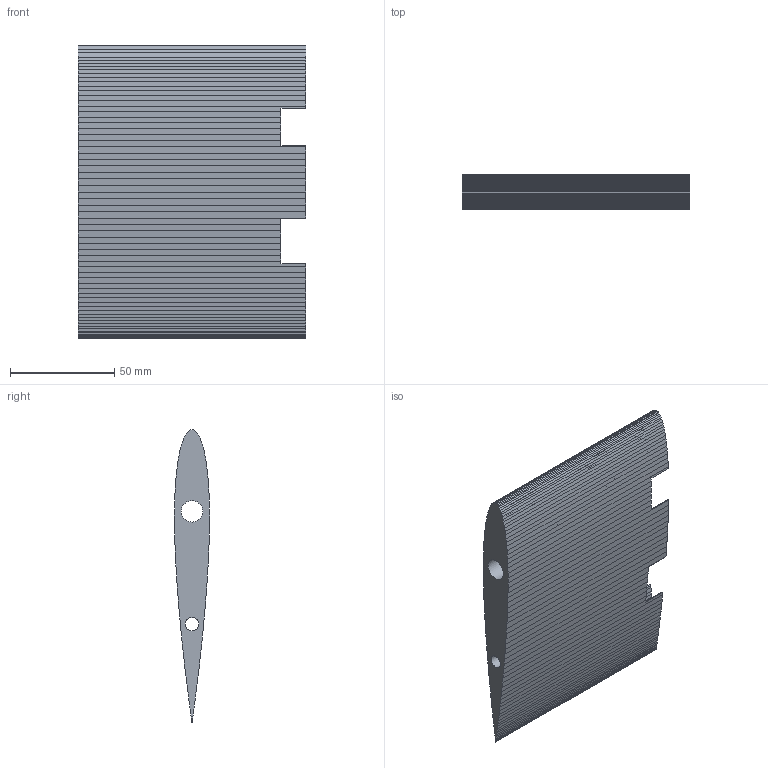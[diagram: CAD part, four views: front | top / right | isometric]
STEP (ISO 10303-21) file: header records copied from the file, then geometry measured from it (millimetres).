
FILE_DESCRIPTION(('Open CASCADE Model'),'2;1');
FILE_NAME('Open CASCADE Shape Model','2026-09-12T16:48:05',('Author'),( 'Open CASCADE'),'Open CASCADE STEP processor 7.9','Open CASCADE 7.9' ,'Unknown');
FILE_SCHEMA(('AUTOMOTIVE_DESIGN { 1 0 10303 214 1 1 1 1 }'));
Products named in the file (1): Open CASCADE STEP translator 7.9 14
Bounding box: 108.8 x 16.8 x 140 mm (x, y, z)
Volume: 28294.3 mm3; surface area: 77074.9 mm2
Topology: 1 solids, 4 shells, 744 faces, 2202 edges, 1468 vertices
Faces by surface type: plane 726, cylinder 18
Full cylindrical faces by diameter (mm): 6.3 x1, 7.5 x4, 10.3 x1, 11.5 x4
Entity records: 50486 total; most frequent: CARTESIAN_POINT 11591, DIRECTION 5490, ORIENTED_EDGE 4404, PCURVE 4404, DEFINITIONAL_REPRESENTATION 4404, LINE 3918, VECTOR 3918, B_SPLINE_CURVE_WITH_KNOTS 2616
